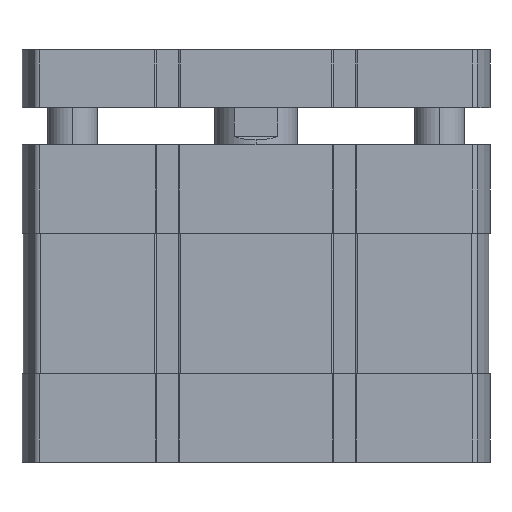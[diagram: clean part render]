
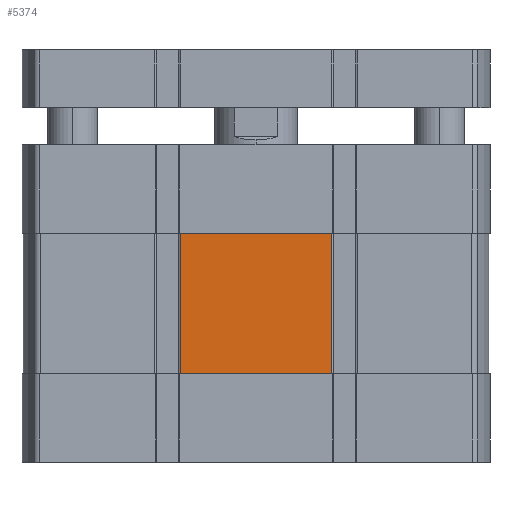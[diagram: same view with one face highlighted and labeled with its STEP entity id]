
A CAD part, front view. The second image highlights one B-rep face of the part: STEP entity #5374.
In plain terms, the highlighted planar face has unit normal (0, -1, 0) as drawn and (-1, 0, 0) by its records, which use the part's own axes.
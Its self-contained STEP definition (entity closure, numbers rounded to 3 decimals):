
#116 = VECTOR ( 'NONE', #21477, 1000. ) ;
#1836 = DIRECTION ( 'NONE',  ( 0., 0., 1. ) ) ;
#1870 = DIRECTION ( 'NONE',  ( -1., 0., 0. ) ) ;
#2091 = ORIENTED_EDGE ( 'NONE', *, *, #3414, .F. ) ;
#3414 = EDGE_CURVE ( 'NONE', #21189, #14276, #11156, .T. ) ;
#3600 = VERTEX_POINT ( 'NONE', #24703 ) ;
#4480 = ORIENTED_EDGE ( 'NONE', *, *, #17720, .T. ) ;
#5374 = ADVANCED_FACE ( 'NONE', ( #15417 ), #13678, .T. ) ;
#5383 = CARTESIAN_POINT ( 'NONE',  ( -56.5, 18.345, -55.5 ) ) ;
#5695 = CARTESIAN_POINT ( 'NONE',  ( -56.5, -18.345, -55.5 ) ) ;
#5727 = CARTESIAN_POINT ( 'NONE',  ( -56.5, 18.345, -55.5 ) ) ;
#7377 = DIRECTION ( 'NONE',  ( 0., 0., -1. ) ) ;
#7734 = LINE ( 'NONE', #5383, #22821 ) ;
#8008 = CARTESIAN_POINT ( 'NONE',  ( -56.5, 18.345, -21.5 ) ) ;
#8429 = ORIENTED_EDGE ( 'NONE', *, *, #8676, .T. ) ;
#8676 = EDGE_CURVE ( 'NONE', #21189, #3600, #19535, .T. ) ;
#9567 = CARTESIAN_POINT ( 'NONE',  ( -56.5, 18.345, -21.5 ) ) ;
#11134 = CARTESIAN_POINT ( 'NONE',  ( -56.5, -18.345, -55.5 ) ) ;
#11156 = LINE ( 'NONE', #24099, #16108 ) ;
#11258 = LINE ( 'NONE', #9567, #116 ) ;
#13529 = CARTESIAN_POINT ( 'NONE',  ( -56.5, 18.345, -55.5 ) ) ;
#13678 = PLANE ( 'NONE',  #24383 ) ;
#14276 = VERTEX_POINT ( 'NONE', #13529 ) ;
#15417 = FACE_OUTER_BOUND ( 'NONE', #24875, .T. ) ;
#15662 = DIRECTION ( 'NONE',  ( 0., 0., 1. ) ) ;
#16108 = VECTOR ( 'NONE', #20178, 1000. ) ;
#17720 = EDGE_CURVE ( 'NONE', #3600, #20085, #11258, .T. ) ;
#17859 = ORIENTED_EDGE ( 'NONE', *, *, #23486, .T. ) ;
#19535 = LINE ( 'NONE', #5695, #24086 ) ;
#20085 = VERTEX_POINT ( 'NONE', #8008 ) ;
#20178 = DIRECTION ( 'NONE',  ( 0., 1., 0. ) ) ;
#21189 = VERTEX_POINT ( 'NONE', #11134 ) ;
#21477 = DIRECTION ( 'NONE',  ( 0., 1., 0. ) ) ;
#22821 = VECTOR ( 'NONE', #7377, 1000. ) ;
#23486 = EDGE_CURVE ( 'NONE', #20085, #14276, #7734, .T. ) ;
#24086 = VECTOR ( 'NONE', #1836, 1000. ) ;
#24099 = CARTESIAN_POINT ( 'NONE',  ( -56.5, -18.545, -55.5 ) ) ;
#24383 = AXIS2_PLACEMENT_3D ( 'NONE', #5727, #1870, #15662 ) ;
#24703 = CARTESIAN_POINT ( 'NONE',  ( -56.5, -18.345, -21.5 ) ) ;
#24875 = EDGE_LOOP ( 'NONE', ( #2091, #8429, #4480, #17859 ) ) ;
